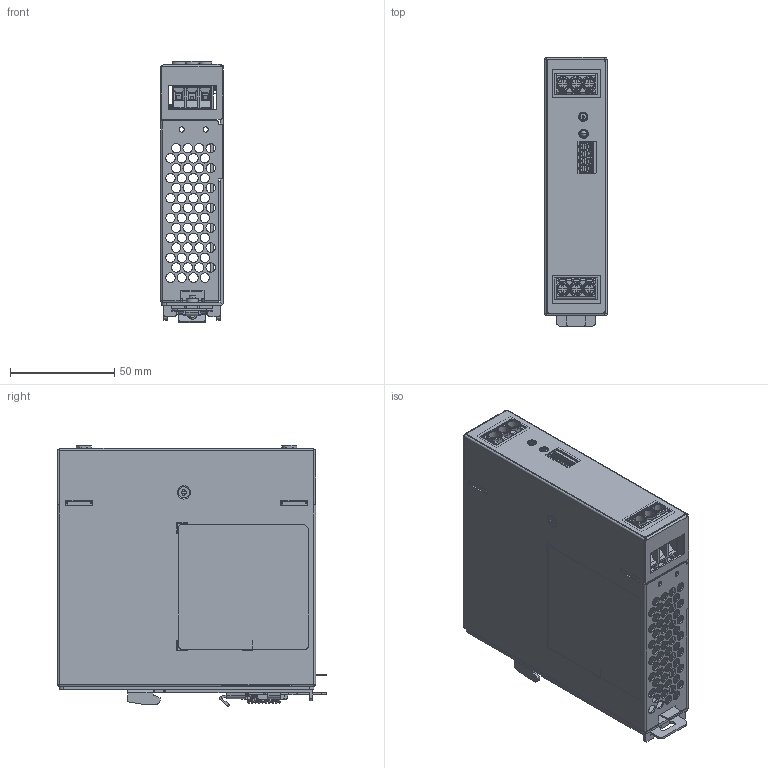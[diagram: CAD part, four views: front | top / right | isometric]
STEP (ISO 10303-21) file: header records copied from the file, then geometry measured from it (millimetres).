
FILE_DESCRIPTION((''),'2;1');
FILE_NAME('DRF-XXV120W1PBA','2026-04-29T15:44:31',('kevin.kc.lin'),(''),'CREO PARAMETRIC BY PTC INC, 2024014','CREO PARAMETRIC BY PTC INC, 2024014','');
FILE_SCHEMA(('CONFIG_CONTROL_DESIGN','GEOMETRIC_VALIDATION_PROPERTIES_MIM'));
Products named in the file (1): DRF-XXV120W1PBA
Bounding box: 30.1 x 128.8 x 125.22 mm (x, y, z)
Volume: 80584.7 mm3; surface area: 130971.9 mm2
Topology: 1 solids, 1 shells, 4904 faces, 13762 edges, 8708 vertices
Faces by surface type: plane 3005, cylinder 1477, bspline 158, torus 94, cone 84, sphere 78, extrusion 8
Entity records: 216132 total; most frequent: CARTESIAN_POINT 55387, ORIENTED_EDGE 27348, DIRECTION 24998, EDGE_CURVE 13674, VECTOR 9612, LINE 9604, VERTEX_POINT 8705, AXIS2_PLACEMENT_3D 7693
